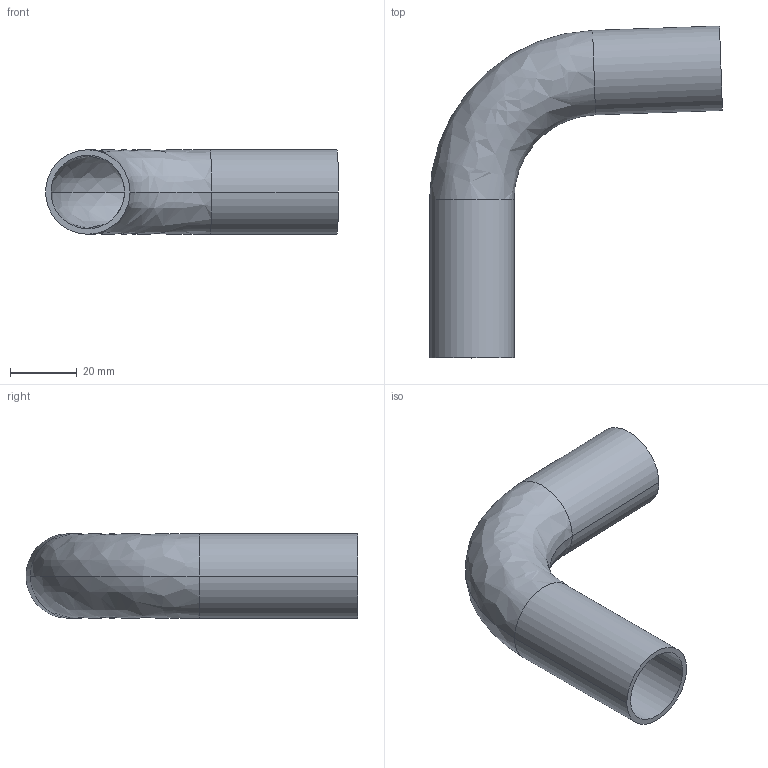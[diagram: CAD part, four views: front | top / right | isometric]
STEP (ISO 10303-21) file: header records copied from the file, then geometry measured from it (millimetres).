
FILE_DESCRIPTION (( 'STEP AP214' ), '1' );
FILE_NAME ('TE2S886L1.0-...STEP', '2016-05-22T08:38:34', ( 'eran' ), ( '' ), 'SwSTEP 2.0', 'SolidWorks 2016', '' );
FILE_SCHEMA (( 'AUTOMOTIVE_DESIGN' ));
Length unit declared in the file: millimetre
Products named in the file (1): TE2S886L1.0-..
Bounding box: 88.07 x 99.81 x 25.4 mm (x, y, z)
Volume: 17778.6 mm3; surface area: 21796 mm2
Topology: 1 solids, 1 shells, 14 faces, 28 edges, 16 vertices
Faces by surface type: cylinder 8, bspline 4, plane 2
Entity records: 450 total; most frequent: CARTESIAN_POINT 119, DIRECTION 70, ORIENTED_EDGE 56, AXIS2_PLACEMENT_3D 31, EDGE_CURVE 28, CIRCLE 20, VERTEX_POINT 16, EDGE_LOOP 16
